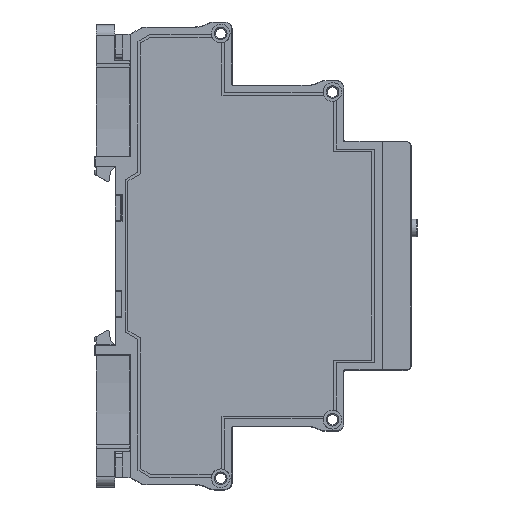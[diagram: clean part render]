
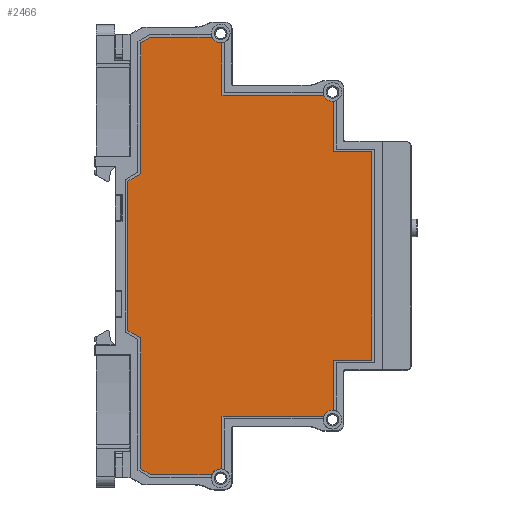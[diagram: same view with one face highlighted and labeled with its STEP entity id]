
A CAD part, top view. The second image highlights one B-rep face of the part: STEP entity #2466.
In plain terms, the highlighted planar face has unit normal (0, 0, 1) as drawn and (1, 0, 0) by its records, which use the part's own axes.
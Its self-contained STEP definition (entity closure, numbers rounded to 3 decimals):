
#2466=ADVANCED_FACE('',(#38766),#38768,.T.);
#38766=FACE_BOUND('',#38767,.T.);
#38767=EDGE_LOOP('',(#67798,#67799,#67800,#67801,#67802,#67803,#67804,#67805,#67806,
#67807,#67808,#67809,#67810,#67811,#67812,#67813,#67814,#67815,#67816,#67817,#67818,
#67819));
#38768=PLANE('',#38769);
#38769=AXIS2_PLACEMENT_3D('',#38770,#38771,#38772);
#38770=CARTESIAN_POINT('',(17.5,0.,0.));
#38771=DIRECTION('',(1.,0.,0.));
#38772=DIRECTION('',(0.,0.,-1.));
#67798=ORIENTED_EDGE('',*,*,#92500,.F.);
#67799=ORIENTED_EDGE('',*,*,#92501,.T.);
#67800=ORIENTED_EDGE('',*,*,#91888,.F.);
#67801=ORIENTED_EDGE('',*,*,#92502,.T.);
#67802=ORIENTED_EDGE('',*,*,#92503,.T.);
#67803=ORIENTED_EDGE('',*,*,#92504,.T.);
#67804=ORIENTED_EDGE('',*,*,#92505,.T.);
#67805=ORIENTED_EDGE('',*,*,#92506,.T.);
#67806=ORIENTED_EDGE('',*,*,#91872,.F.);
#67807=ORIENTED_EDGE('',*,*,#92507,.F.);
#67808=ORIENTED_EDGE('',*,*,#92508,.T.);
#67809=ORIENTED_EDGE('',*,*,#91882,.F.);
#67810=ORIENTED_EDGE('',*,*,#92509,.T.);
#67811=ORIENTED_EDGE('',*,*,#92510,.F.);
#67812=ORIENTED_EDGE('',*,*,#92511,.T.);
#67813=ORIENTED_EDGE('',*,*,#92512,.T.);
#67814=ORIENTED_EDGE('',*,*,#92513,.T.);
#67815=ORIENTED_EDGE('',*,*,#92514,.T.);
#67816=ORIENTED_EDGE('',*,*,#92515,.T.);
#67817=ORIENTED_EDGE('',*,*,#92516,.F.);
#67818=ORIENTED_EDGE('',*,*,#92517,.T.);
#67819=ORIENTED_EDGE('',*,*,#91898,.F.);
#91872=EDGE_CURVE('',#103542,#103527,#103544,.T.);
#91882=EDGE_CURVE('',#103562,#103547,#103564,.T.);
#91888=EDGE_CURVE('',#103574,#103576,#103577,.T.);
#91898=EDGE_CURVE('',#103594,#103596,#103597,.T.);
#92500=EDGE_CURVE('',#104694,#103594,#104695,.T.);
#92501=EDGE_CURVE('',#104694,#103576,#104696,.T.);
#92502=EDGE_CURVE('',#103574,#104697,#104698,.T.);
#92503=EDGE_CURVE('',#104697,#104699,#104700,.T.);
#92504=EDGE_CURVE('',#104699,#104701,#104702,.T.);
#92505=EDGE_CURVE('',#104701,#104703,#104704,.T.);
#92506=EDGE_CURVE('',#104703,#103527,#104705,.T.);
#92507=EDGE_CURVE('',#104706,#103542,#104707,.T.);
#92508=EDGE_CURVE('',#104706,#103547,#104708,.T.);
#92509=EDGE_CURVE('',#103562,#104709,#104710,.T.);
#92510=EDGE_CURVE('',#104711,#104709,#104712,.T.);
#92511=EDGE_CURVE('',#104711,#104713,#104714,.T.);
#92512=EDGE_CURVE('',#104713,#104715,#104716,.T.);
#92513=EDGE_CURVE('',#104715,#104717,#104718,.T.);
#92514=EDGE_CURVE('',#104717,#104719,#104720,.T.);
#92515=EDGE_CURVE('',#104719,#104721,#104722,.T.);
#92516=EDGE_CURVE('',#104723,#104721,#104724,.T.);
#92517=EDGE_CURVE('',#104723,#103596,#104725,.T.);
#103527=VERTEX_POINT('',#123529);
#103542=VERTEX_POINT('',#123562);
#103544=CIRCLE('',#123566,1.85);
#103547=VERTEX_POINT('',#123575);
#103562=VERTEX_POINT('',#123608);
#103564=CIRCLE('',#123612,1.85);
#103574=VERTEX_POINT('',#123636);
#103576=VERTEX_POINT('',#123640);
#103577=CIRCLE('',#123641,1.85);
#103594=VERTEX_POINT('',#123682);
#103596=VERTEX_POINT('',#123686);
#103597=CIRCLE('',#123687,1.85);
#104694=VERTEX_POINT('',#126014);
#104695=LINE('',#126015,#126016);
#104696=LINE('',#126018,#126019);
#104697=VERTEX_POINT('',#126021);
#104698=LINE('',#126022,#126023);
#104699=VERTEX_POINT('',#126025);
#104700=LINE('',#126026,#126027);
#104701=VERTEX_POINT('',#126029);
#104702=LINE('',#126030,#126031);
#104703=VERTEX_POINT('',#126033);
#104704=LINE('',#126034,#126035);
#104705=LINE('',#126037,#126038);
#104706=VERTEX_POINT('',#126040);
#104707=LINE('',#126041,#126042);
#104708=LINE('',#126044,#126045);
#104709=VERTEX_POINT('',#126047);
#104710=LINE('',#126048,#126049);
#104711=VERTEX_POINT('',#126051);
#104712=LINE('',#126052,#126053);
#104713=VERTEX_POINT('',#126055);
#104714=LINE('',#126056,#126057);
#104715=VERTEX_POINT('',#126059);
#104716=LINE('',#126060,#126061);
#104717=VERTEX_POINT('',#126063);
#104718=LINE('',#126064,#126065);
#104719=VERTEX_POINT('',#126067);
#104720=LINE('',#126068,#126069);
#104721=VERTEX_POINT('',#126071);
#104722=LINE('',#126072,#126073);
#104723=VERTEX_POINT('',#126075);
#104724=LINE('',#126076,#126077);
#104725=LINE('',#126079,#126080);
#123529=CARTESIAN_POINT('',(17.5,-30.541,38.985));
#123562=CARTESIAN_POINT('',(17.5,-31.7,37.015));
#123566=AXIS2_PLACEMENT_3D('',#123567,#123568,#123569);
#123567=CARTESIAN_POINT('',(17.5,-32.375,38.738));
#123568=DIRECTION('',(1.,0.,0.));
#123569=DIRECTION('',(0.,0.365,-0.931));
#123575=CARTESIAN_POINT('',(17.5,-42.103,16.897));
#123608=CARTESIAN_POINT('',(17.5,-43.2,14.953));
#123612=AXIS2_PLACEMENT_3D('',#123613,#123614,#123615);
#123613=CARTESIAN_POINT('',(17.5,-43.937,16.65));
#123614=DIRECTION('',(1.,0.,0.));
#123615=DIRECTION('',(0.,0.398,-0.917));
#123636=CARTESIAN_POINT('',(17.5,30.541,38.985));
#123640=CARTESIAN_POINT('',(17.5,31.7,37.015));
#123641=AXIS2_PLACEMENT_3D('',#123642,#123643,#123644);
#123642=CARTESIAN_POINT('',(17.5,32.375,38.738));
#123643=DIRECTION('',(1.,0.,0.));
#123644=DIRECTION('',(0.,-0.991,0.134));
#123682=CARTESIAN_POINT('',(17.5,42.103,16.897));
#123686=CARTESIAN_POINT('',(17.5,43.2,14.953));
#123687=AXIS2_PLACEMENT_3D('',#123688,#123689,#123690);
#123688=CARTESIAN_POINT('',(17.5,43.937,16.65));
#123689=DIRECTION('',(1.,0.,0.));
#123690=DIRECTION('',(0.,-0.991,0.134));
#126014=CARTESIAN_POINT('',(17.5,31.7,16.897));
#126015=CARTESIAN_POINT('',(17.5,31.7,16.897));
#126016=VECTOR('',#126017,1.);
#126017=DIRECTION('',(0.,1.,0.));
#126018=CARTESIAN_POINT('',(17.5,31.7,16.897));
#126019=VECTOR('',#126020,1.);
#126020=DIRECTION('',(0.,0.,1.));
#126021=CARTESIAN_POINT('',(17.5,20.6,38.985));
#126022=CARTESIAN_POINT('',(17.5,30.541,38.985));
#126023=VECTOR('',#126024,1.);
#126024=DIRECTION('',(0.,-1.,0.));
#126025=CARTESIAN_POINT('',(17.5,20.6,46.53));
#126026=CARTESIAN_POINT('',(17.5,20.6,38.985));
#126027=VECTOR('',#126028,1.);
#126028=DIRECTION('',(0.,0.,1.));
#126029=CARTESIAN_POINT('',(17.5,-20.6,46.53));
#126030=CARTESIAN_POINT('',(17.5,20.6,46.53));
#126031=VECTOR('',#126032,1.);
#126032=DIRECTION('',(0.,-1.,0.));
#126033=CARTESIAN_POINT('',(17.5,-20.6,38.985));
#126034=CARTESIAN_POINT('',(17.5,-20.6,46.53));
#126035=VECTOR('',#126036,1.);
#126036=DIRECTION('',(0.,0.,-1.));
#126037=CARTESIAN_POINT('',(17.5,-20.6,38.985));
#126038=VECTOR('',#126039,1.);
#126039=DIRECTION('',(0.,-1.,0.));
#126040=CARTESIAN_POINT('',(17.5,-31.7,16.897));
#126041=CARTESIAN_POINT('',(17.5,-31.7,16.897));
#126042=VECTOR('',#126043,1.);
#126043=DIRECTION('',(0.,0.,1.));
#126044=CARTESIAN_POINT('',(17.5,-31.7,16.897));
#126045=VECTOR('',#126046,1.);
#126046=DIRECTION('',(0.,-1.,0.));
#126047=CARTESIAN_POINT('',(17.5,-43.2,2.761));
#126048=CARTESIAN_POINT('',(17.5,-43.2,14.953));
#126049=VECTOR('',#126050,1.);
#126050=DIRECTION('',(0.,0.,-1.));
#126051=CARTESIAN_POINT('',(17.5,-42.068,0.8));
#126052=CARTESIAN_POINT('',(17.5,-42.068,0.8));
#126053=VECTOR('',#126054,1.);
#126054=DIRECTION('',(0.,-0.5,0.866));
#126055=CARTESIAN_POINT('',(17.5,-16.211,0.8));
#126056=CARTESIAN_POINT('',(17.5,-42.068,0.8));
#126057=VECTOR('',#126058,1.);
#126058=DIRECTION('',(0.,1.,0.));
#126059=CARTESIAN_POINT('',(17.5,-14.768,-1.7));
#126060=CARTESIAN_POINT('',(17.5,-16.211,0.8));
#126061=VECTOR('',#126062,1.);
#126062=DIRECTION('',(0.,0.5,-0.866));
#126063=CARTESIAN_POINT('',(17.5,14.768,-1.7));
#126064=CARTESIAN_POINT('',(17.5,-14.768,-1.7));
#126065=VECTOR('',#126066,1.);
#126066=DIRECTION('',(0.,1.,0.));
#126067=CARTESIAN_POINT('',(17.5,16.211,0.8));
#126068=CARTESIAN_POINT('',(17.5,14.768,-1.7));
#126069=VECTOR('',#126070,1.);
#126070=DIRECTION('',(0.,0.5,0.866));
#126071=CARTESIAN_POINT('',(17.5,42.068,0.8));
#126072=CARTESIAN_POINT('',(17.5,16.211,0.8));
#126073=VECTOR('',#126074,1.);
#126074=DIRECTION('',(0.,1.,0.));
#126075=CARTESIAN_POINT('',(17.5,43.2,2.761));
#126076=CARTESIAN_POINT('',(17.5,43.2,2.761));
#126077=VECTOR('',#126078,1.);
#126078=DIRECTION('',(0.,-0.5,-0.866));
#126079=CARTESIAN_POINT('',(17.5,43.2,2.761));
#126080=VECTOR('',#126081,1.);
#126081=DIRECTION('',(0.,0.,1.));
